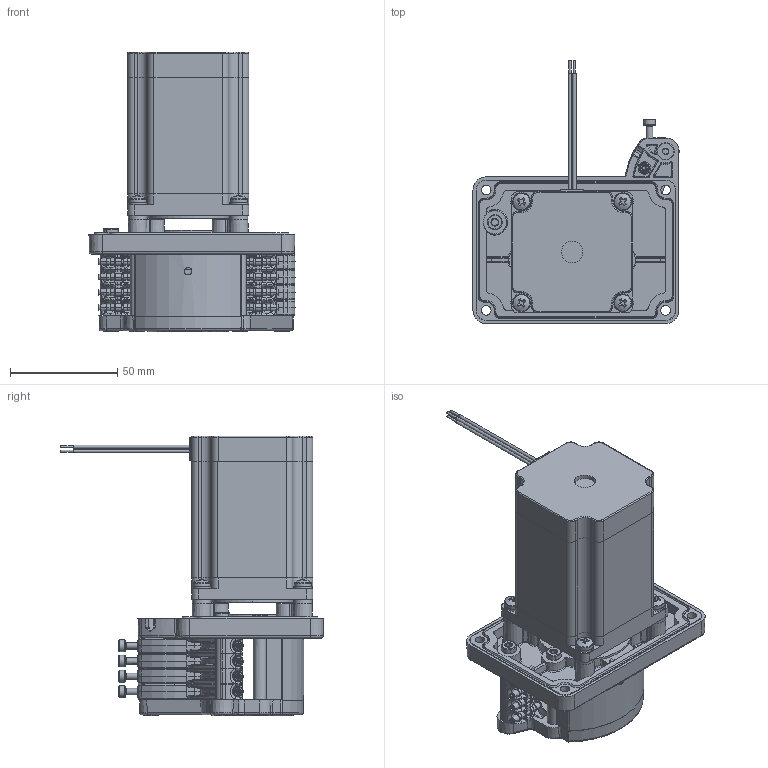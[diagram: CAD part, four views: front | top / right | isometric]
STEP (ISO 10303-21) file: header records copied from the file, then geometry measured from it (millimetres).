
FILE_DESCRIPTION (( 'STEP AP214' ), '1' );
FILE_NAME ('Assy_6K6001_NC_R00.STEP', '2026-09-24T11:44:33', ( '' ), ( '' ), 'SwSTEP 2.0', 'SolidWorks 2021', '' );
FILE_SCHEMA (( 'AUTOMOTIVE_DESIGN' ));
Length unit declared in the file: millimetre
Products named in the file (1): Assy_6K6001_NC_R00
Bounding box: 95.89 x 122.36 x 130.25 mm (x, y, z)
Volume: 309238.4 mm3; surface area: 94953.3 mm2
Topology: 9 solids, 16 shells, 3101 faces, 7514 edges, 4402 vertices
Faces by surface type: plane 1052, cylinder 797, bspline 516, cone 338, torus 263, sphere 135
Full cylindrical faces by diameter (mm): 1 x4, 1.35 x4, 1.6 x4, 1.8 x8, 2.5 x1, 3 x8, 3.2 x4, 3.96 x3, 4.2 x3, 4.5 x4, 5 x4, 5.5 x4, 5.95 x3, 6 x2, 6.05 x1, 7.5 x9, 8 x4, 8.55 x8, 10 x1, 24 x1
Entity records: 106971 total; most frequent: CARTESIAN_POINT 41661, ORIENTED_EDGE 14344, DIRECTION 12559, EDGE_CURVE 7172, AXIS2_PLACEMENT_3D 4879, VERTEX_POINT 4339, EDGE_LOOP 3401, FACE_OUTER_BOUND 3194
